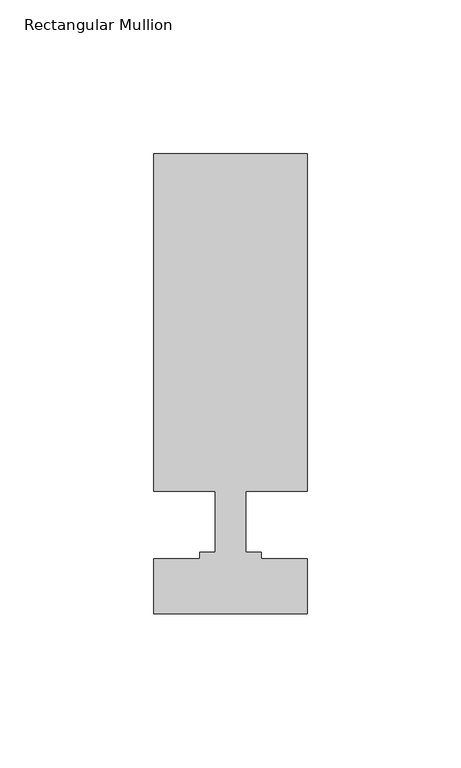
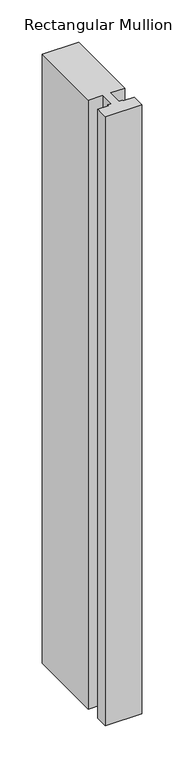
"""IFC4 building model written with IfcOpenShell, lengths in millimetres: member geometry, Rectangular Mullion : TR_CW_¸ALU_internal."""

from ifc_helpers import new_model, si_unit, frame, origin, place, context, project, spatial, polyline, outline, extrude, source, transform, mapped, element, save


def rectangular_mullion_aa9de916(model_context):
    return source(origin(), model_context, "Body", "SweptSolid", [
        extrude(outline(polyline([(25.0, 0.0), (-25.0, 0.0), (-25.0, 18.0204111), (-10.0, 18.0204111), (-10.0, 20.0), (-5.0, 20.0), (-5.0, 40.0), (-25.0, 40.0), (-25.0, 149.8096073), (25.0, 149.8096073), (25.0, 40.0), (5.0, 40.0), (5.0, 20.0), (10.0, 20.0), (10.0, 18.0204111), (25.0, 18.0204111), (25.0, 0.0)])), frame((0.0, 0.0, -883.0), z_axis=(0.0, 0.0, 1.0), x_axis=(1.0, 0.0, 0.0)), (0.0, 0.0, 1.0), 883.0),
    ])


if __name__ == "__main__":
    model = new_model("IFC4")
    model_context = context("Model", 3, world=origin())
    ifc_project = project(units=[si_unit("LENGTHUNIT", "METRE", prefix="MILLI")], contexts=[model_context])
    site = spatial("IfcSite", under=ifc_project)
    building = spatial("IfcBuilding", under=site)
    placement = place(None, origin())
    rectangular_mullion_shape = rectangular_mullion_aa9de916(model_context)
    element("IfcMember", 1, ObjectType="Rectangular Mullion : TR_CW_¸ALU_internal", at=placement, inside=building, context=model_context, shape_type="MappedRepresentation", body=[
        mapped(rectangular_mullion_shape, transform((0.0, 0.0, 0.0), x_axis=(1.0, 0.0, 0.0), y_axis=(0.0, 1.0, 0.0), z_axis=(0.0, 0.0, 1.0))),
    ])
    save(model, "model.ifc")
